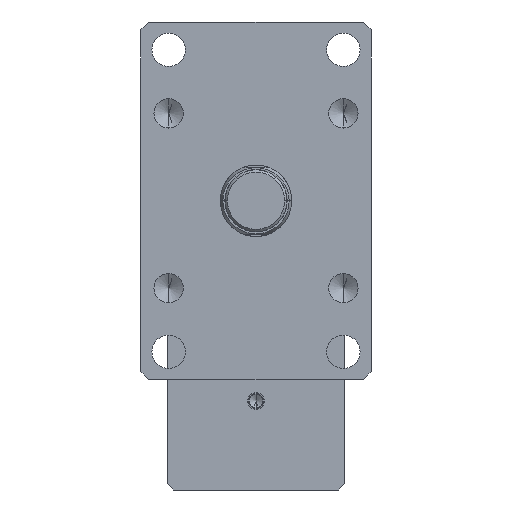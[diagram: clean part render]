
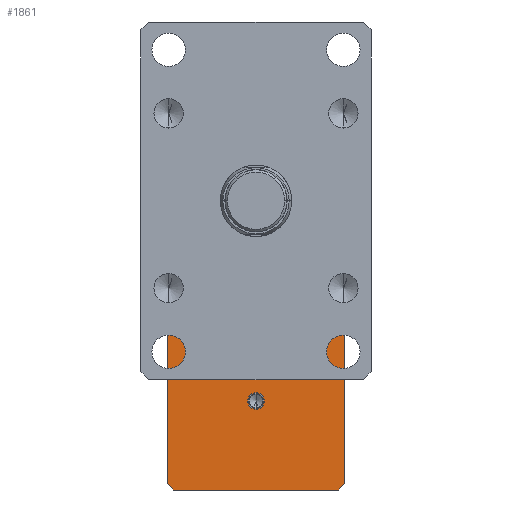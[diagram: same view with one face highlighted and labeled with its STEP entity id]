
A CAD part, left-side view. The second image highlights one B-rep face of the part: STEP entity #1861.
In plain terms, the highlighted planar face has unit normal (-1, 0, 0).
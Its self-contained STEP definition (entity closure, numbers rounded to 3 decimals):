
#346 = ORIENTED_EDGE ( 'NONE', *, *, #6393, .F. ) ;
#348 = VECTOR ( 'NONE', #12133, 1000. ) ;
#541 = CARTESIAN_POINT ( 'NONE',  ( 375., 52., -182. ) ) ;
#586 = VERTEX_POINT ( 'NONE', #8532 ) ;
#626 = EDGE_CURVE ( 'NONE', #7097, #1340, #5789, .T. ) ;
#656 = CARTESIAN_POINT ( 'NONE',  ( 375., -56., -182. ) ) ;
#661 = CARTESIAN_POINT ( 'NONE',  ( 375., 56., -74. ) ) ;
#687 = LINE ( 'NONE', #10051, #3300 ) ;
#765 = LINE ( 'NONE', #9729, #5716 ) ;
#895 = DIRECTION ( 'NONE',  ( 0., -0.707, 0.707 ) ) ;
#1140 = ORIENTED_EDGE ( 'NONE', *, *, #7309, .T. ) ;
#1340 = VERTEX_POINT ( 'NONE', #4907 ) ;
#1849 = EDGE_CURVE ( 'NONE', #5488, #586, #687, .T. ) ;
#1861 = ADVANCED_FACE ( 'NONE', ( #8276, #10867 ), #3192, .F. ) ;
#2074 = EDGE_LOOP ( 'NONE', ( #8414, #2139, #1140, #11671, #10798, #11085, #10402, #8186 ) ) ;
#2139 = ORIENTED_EDGE ( 'NONE', *, *, #1849, .T. ) ;
#2222 = VECTOR ( 'NONE', #8462, 1000. ) ;
#2230 = VERTEX_POINT ( 'NONE', #12193 ) ;
#2256 = CARTESIAN_POINT ( 'NONE',  ( 375., -56., -70. ) ) ;
#2640 = AXIS2_PLACEMENT_3D ( 'NONE', #5828, #12715, #6809 ) ;
#2671 = DIRECTION ( 'NONE',  ( 0., 1., 0. ) ) ;
#2964 = LINE ( 'NONE', #2256, #348 ) ;
#3192 = PLANE ( 'NONE',  #3391 ) ;
#3300 = VECTOR ( 'NONE', #7131, 1000. ) ;
#3391 = AXIS2_PLACEMENT_3D ( 'NONE', #9068, #10094, #4191 ) ;
#3616 = CARTESIAN_POINT ( 'NONE',  ( 375., -56., -182. ) ) ;
#3732 = VERTEX_POINT ( 'NONE', #11954 ) ;
#4069 = CIRCLE ( 'NONE', #6490, 5.143 ) ;
#4191 = DIRECTION ( 'NONE',  ( 0., 0., -1. ) ) ;
#4388 = LINE ( 'NONE', #656, #9633 ) ;
#4656 = DIRECTION ( 'NONE',  ( -1., 0., 0. ) ) ;
#4744 = VECTOR ( 'NONE', #11818, 1000. ) ;
#4907 = CARTESIAN_POINT ( 'NONE',  ( 375., 56., -74. ) ) ;
#4923 = CARTESIAN_POINT ( 'NONE',  ( 375., 56., -182. ) ) ;
#4960 = CARTESIAN_POINT ( 'NONE',  ( 375., -56., -74. ) ) ;
#5428 = EDGE_CURVE ( 'NONE', #10757, #1340, #9693, .T. ) ;
#5488 = VERTEX_POINT ( 'NONE', #4960 ) ;
#5563 = EDGE_LOOP ( 'NONE', ( #346, #9076 ) ) ;
#5675 = CIRCLE ( 'NONE', #2640, 5.143 ) ;
#5716 = VECTOR ( 'NONE', #895, 1000. ) ;
#5752 = EDGE_CURVE ( 'NONE', #2230, #10123, #11852, .T. ) ;
#5789 = LINE ( 'NONE', #661, #8437 ) ;
#5828 = CARTESIAN_POINT ( 'NONE',  ( 375., 0., -126. ) ) ;
#6180 = CARTESIAN_POINT ( 'NONE',  ( 375., 52., -182. ) ) ;
#6304 = VECTOR ( 'NONE', #2671, 1000. ) ;
#6393 = EDGE_CURVE ( 'NONE', #7776, #3732, #5675, .T. ) ;
#6490 = AXIS2_PLACEMENT_3D ( 'NONE', #10573, #4656, #11572 ) ;
#6585 = CARTESIAN_POINT ( 'NONE',  ( 375., 56., -178. ) ) ;
#6809 = DIRECTION ( 'NONE',  ( 0., 0., 1. ) ) ;
#7001 = VERTEX_POINT ( 'NONE', #12061 ) ;
#7097 = VERTEX_POINT ( 'NONE', #9218 ) ;
#7131 = DIRECTION ( 'NONE',  ( 0., 0.707, 0.707 ) ) ;
#7209 = CARTESIAN_POINT ( 'NONE',  ( 375., 0., -120.857 ) ) ;
#7309 = EDGE_CURVE ( 'NONE', #586, #7097, #2964, .T. ) ;
#7571 = DIRECTION ( 'NONE',  ( 0., 0., 1. ) ) ;
#7776 = VERTEX_POINT ( 'NONE', #7209 ) ;
#8186 = ORIENTED_EDGE ( 'NONE', *, *, #9231, .T. ) ;
#8276 = FACE_BOUND ( 'NONE', #5563, .T. ) ;
#8414 = ORIENTED_EDGE ( 'NONE', *, *, #11182, .T. ) ;
#8437 = VECTOR ( 'NONE', #11533, 1000. ) ;
#8462 = DIRECTION ( 'NONE',  ( 0., -0.707, -0.707 ) ) ;
#8532 = CARTESIAN_POINT ( 'NONE',  ( 375., -52., -70. ) ) ;
#9068 = CARTESIAN_POINT ( 'NONE',  ( 375., -56., -182. ) ) ;
#9076 = ORIENTED_EDGE ( 'NONE', *, *, #11217, .F. ) ;
#9218 = CARTESIAN_POINT ( 'NONE',  ( 375., 52., -70. ) ) ;
#9231 = EDGE_CURVE ( 'NONE', #2230, #7001, #765, .T. ) ;
#9633 = VECTOR ( 'NONE', #7571, 1000. ) ;
#9693 = LINE ( 'NONE', #4923, #4744 ) ;
#9729 = CARTESIAN_POINT ( 'NONE',  ( 375., -52., -182. ) ) ;
#10051 = CARTESIAN_POINT ( 'NONE',  ( 375., -56., -74. ) ) ;
#10094 = DIRECTION ( 'NONE',  ( 1., 0., 0. ) ) ;
#10123 = VERTEX_POINT ( 'NONE', #6180 ) ;
#10402 = ORIENTED_EDGE ( 'NONE', *, *, #5752, .F. ) ;
#10573 = CARTESIAN_POINT ( 'NONE',  ( 375., 0., -126. ) ) ;
#10757 = VERTEX_POINT ( 'NONE', #6585 ) ;
#10798 = ORIENTED_EDGE ( 'NONE', *, *, #5428, .F. ) ;
#10867 = FACE_OUTER_BOUND ( 'NONE', #2074, .T. ) ;
#11085 = ORIENTED_EDGE ( 'NONE', *, *, #12217, .T. ) ;
#11182 = EDGE_CURVE ( 'NONE', #7001, #5488, #4388, .T. ) ;
#11217 = EDGE_CURVE ( 'NONE', #3732, #7776, #4069, .T. ) ;
#11533 = DIRECTION ( 'NONE',  ( 0., 0.707, -0.707 ) ) ;
#11572 = DIRECTION ( 'NONE',  ( 0., 0., 1. ) ) ;
#11671 = ORIENTED_EDGE ( 'NONE', *, *, #626, .T. ) ;
#11818 = DIRECTION ( 'NONE',  ( 0., 0., 1. ) ) ;
#11852 = LINE ( 'NONE', #3616, #6304 ) ;
#11954 = CARTESIAN_POINT ( 'NONE',  ( 375., 0., -131.143 ) ) ;
#12061 = CARTESIAN_POINT ( 'NONE',  ( 375., -56., -178. ) ) ;
#12133 = DIRECTION ( 'NONE',  ( 0., 1., 0. ) ) ;
#12193 = CARTESIAN_POINT ( 'NONE',  ( 375., -52., -182. ) ) ;
#12217 = EDGE_CURVE ( 'NONE', #10757, #10123, #12710, .T. ) ;
#12710 = LINE ( 'NONE', #541, #2222 ) ;
#12715 = DIRECTION ( 'NONE',  ( -1., 0., 0. ) ) ;
